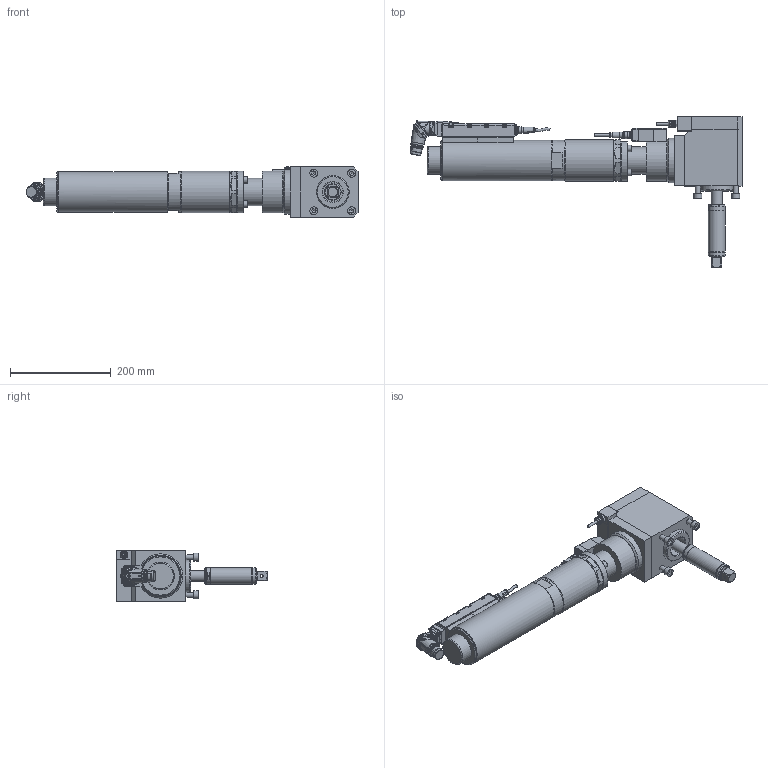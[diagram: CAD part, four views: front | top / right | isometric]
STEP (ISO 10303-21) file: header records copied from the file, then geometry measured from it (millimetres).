
FILE_DESCRIPTION (( 'STEP AP214' ), '1' );
FILE_NAME ('70082536_ESX350ZWRX500AWDX350-500.STEP', '2016-11-15T11:53:26', ( 'admin' ), ( '' ), 'SwSTEP 2.0', 'SolidWorks 2014', '' );
FILE_SCHEMA (( 'AUTOMOTIVE_DESIGN' ));
Length unit declared in the file: millimetre
Products named in the file (11): 70082405; 70082335; 70082310_ESX350_Standard_Winkel_2; 70082293_2; 70057493_Standard_winkel; 70057493_4; 70057493_3; 70057493_2; 70082310; 70082536_ESX350ZWRX500AWDX350-500; 7002133_3
Assembly tree (11 placements, depth 4):
  70082536_ESX350ZWRX500AWDX350-500
    70082310_ESX350_Standard_Winkel_2
      70082310
      70057493_Standard_winkel
        70057493_2
        70057493_3
        70057493_4
      70082293_2  x2
    70082335
    70082405
    7002133_3
Bounding box: 658.56 x 298 x 100 mm (x, y, z)
Volume: 4542208.1 mm3; surface area: 367847.9 mm2
Topology: 13 solids, 14 shells, 2724 faces, 6960 edges, 4475 vertices
Faces by surface type: plane 1255, cylinder 725, cone 395, bspline 270, torus 74, sphere 5
Full cylindrical faces by diameter (mm): 0.5 x14, 0.57 x14, 2 x3, 2.5 x1, 3 x4, 4.2 x1, 4.9 x4, 5 x9, 5.5 x13, 6 x2, 6.8 x8, 8 x23, 8.459 x2, 9 x3, 9.5 x1, 9.7 x1, 10 x4, 11.08 x2, 11.7 x1, 12 x1, 12.3 x2, 13 x5, 14 x5, 14.5 x2, 16 x4, 17.4 x1, 19.75 x1, 20 x2, 20.5 x1, 21.15 x1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
Entity records: 91070 total; most frequent: CARTESIAN_POINT 30924, ORIENTED_EDGE 12348, DIRECTION 10817, EDGE_CURVE 6174, VERTEX_POINT 4147, AXIS2_PLACEMENT_3D 4062, EDGE_LOOP 3149, FACE_OUTER_BOUND 2810
